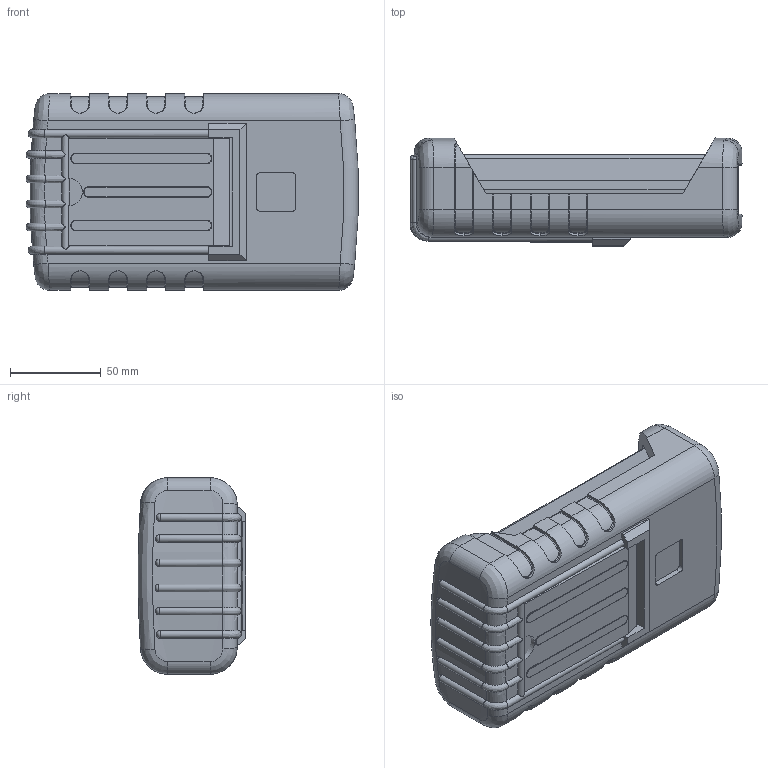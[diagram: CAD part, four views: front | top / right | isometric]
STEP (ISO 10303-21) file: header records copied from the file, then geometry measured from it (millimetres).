
FILE_DESCRIPTION (( 'STEP AP214' ), '1' );
FILE_NAME ('90-43-4A-E-R-BO.STEP', '2020-10-05T01:00:14', ( 'Rudy' ), ( '' ), 'SwSTEP 2.0', 'SolidWorks 2014', '' );
FILE_SCHEMA (( 'AUTOMOTIVE_DESIGN' ));
Length unit declared in the file: inch
Products named in the file (9): 90 RBE Boot; RE 90 stand; 90 PCB 29V-4AA; 4AAdoor; 90-Top Recess; 90 expander; 90-4AA; 90-43-4A-E-R-BO
Assembly tree (8 placements, depth 3):
  90-43-4A-E-R-BO
    90-4AA
    90 expander
    90-Top Recess
    4AAdoor
    90 PCB 29V-4AA
    90 RBE Boot
      90 RBE Boot
      RE 90 stand
Bounding box: 183.26 x 59.56 x 108.46 mm (x, y, z)
Volume: 406672 mm3; surface area: 217268.5 mm2
Topology: 7 solids, 7 shells, 1243 faces, 3368 edges, 2164 vertices
Faces by surface type: plane 739, cylinder 304, bspline 76, torus 57, cone 52, sphere 15
Entity records: 46760 total; most frequent: CARTESIAN_POINT 14557, ORIENTED_EDGE 6692, DIRECTION 6144, EDGE_CURVE 3346, VECTOR 2244, LINE 2244, VERTEX_POINT 2156, AXIS2_PLACEMENT_3D 1950
